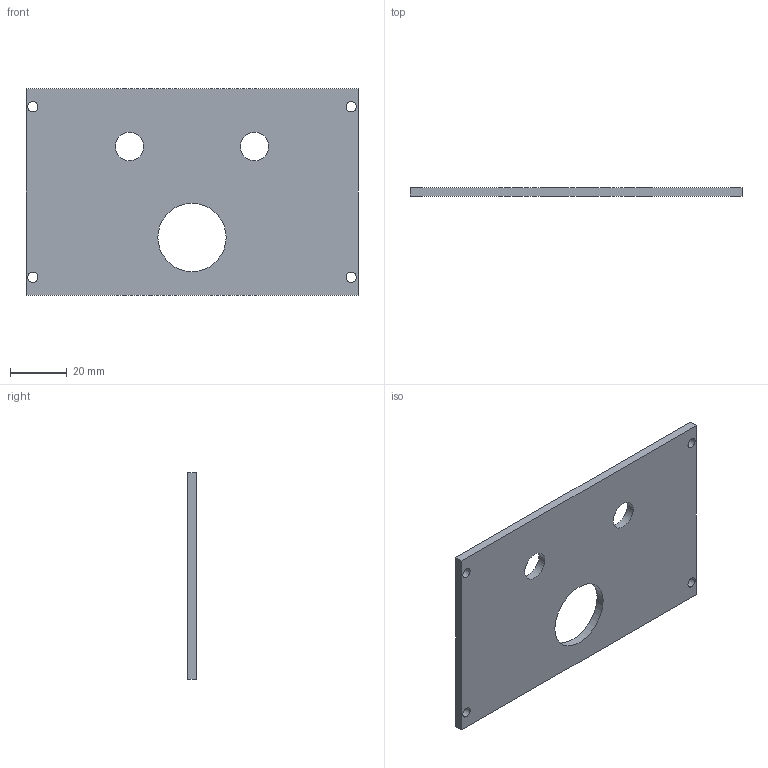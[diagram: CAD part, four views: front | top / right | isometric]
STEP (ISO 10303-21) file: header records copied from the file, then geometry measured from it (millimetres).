
FILE_DESCRIPTION(('Open CASCADE Model'),'2;1');
FILE_NAME('Open CASCADE Shape Model','2026-10-06T17:17:59',('Author'),( 'Open CASCADE'),'Open CASCADE STEP processor 7.8','Open CASCADE 7.8' ,'Unknown');
FILE_SCHEMA(('AUTOMOTIVE_DESIGN { 1 0 10303 214 1 1 1 1 }'));
Length unit declared in the file: millimetre
Products named in the file (1): Open CASCADE STEP translator 7.8 12
Bounding box: 116.8 x 3 x 72.8 mm (x, y, z)
Volume: 23558.6 mm3; surface area: 17393.7 mm2
Topology: 1 solids, 1 shells, 13 faces, 33 edges, 22 vertices
Faces by surface type: cylinder 7, plane 6
Full cylindrical faces by diameter (mm): 3.6 x4, 10 x2, 24 x1
Entity records: 868 total; most frequent: DIRECTION 141, CARTESIAN_POINT 135, LINE 71, VECTOR 71, ORIENTED_EDGE 66, PCURVE 66, DEFINITIONAL_REPRESENTATION 66, EDGE_CURVE 33
